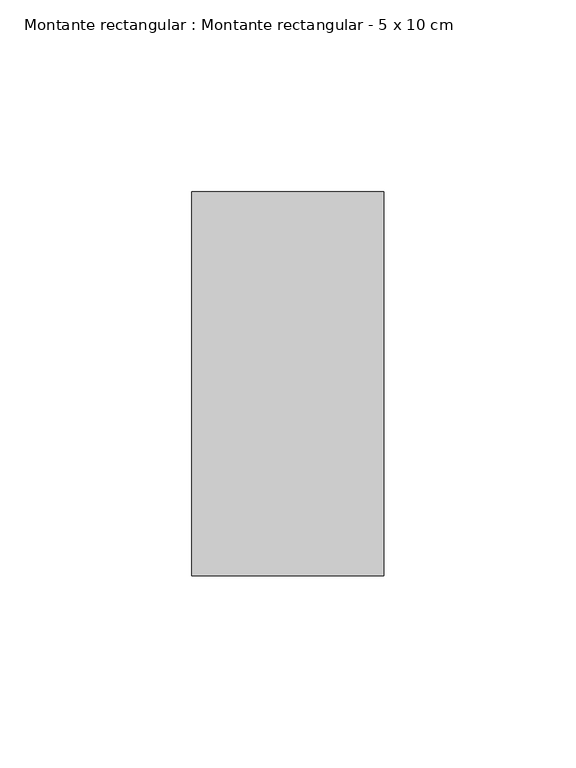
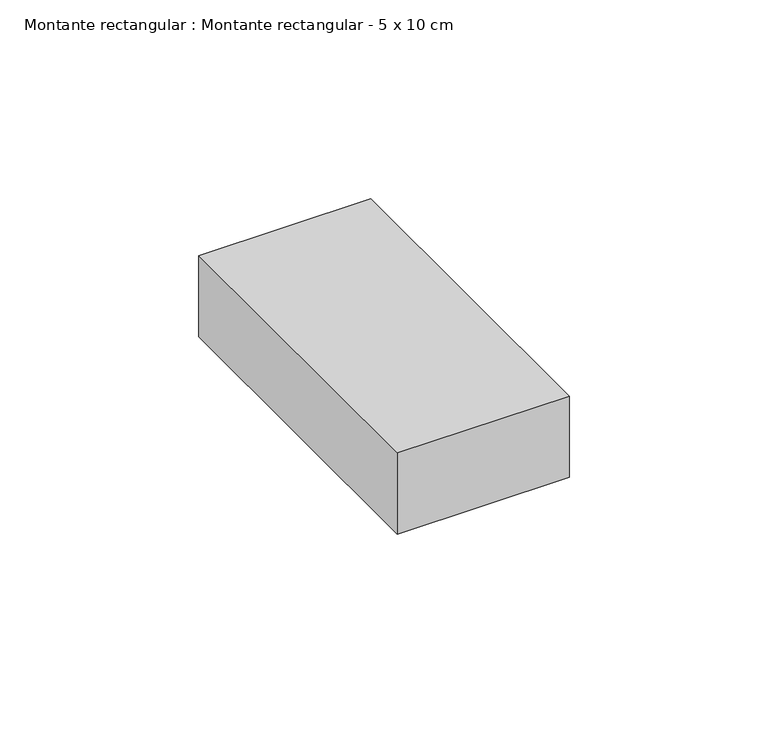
"""IFC4 building model written with IfcOpenShell, lengths in millimetres: member geometry, Montante rectangular : Montante rectangular - 5 x 10 cm."""

from ifc_helpers import new_model, si_unit, frame, origin, place, context, project, spatial, polyline, outline, extrude, source, transform, mapped, element, save


def montante_rectangular_montante_rectangular_5_x_10_cm_b65881a9(model_context):
    return source(origin(), model_context, "Body", "SweptSolid", [
        extrude(outline(polyline([(0.0, 50.0), (0.0, -50.0), (-50.0, -50.0), (-50.0, 50.0), (0.0, 50.0)])), frame((0.0, 0.0, -25.0), z_axis=(0.0, 0.0, 1.0), x_axis=(1.0, 0.0, 0.0)), (0.0, 0.0, 1.0), 25.0),
    ])


if __name__ == "__main__":
    model = new_model("IFC4")
    model_context = context("Model", 3, world=origin())
    ifc_project = project(units=[si_unit("LENGTHUNIT", "METRE", prefix="MILLI")], contexts=[model_context])
    site = spatial("IfcSite", under=ifc_project)
    building = spatial("IfcBuilding", under=site)
    placement = place(None, origin())
    montante_rectangular_montante_rectangular_5_x_10_cm_shape = montante_rectangular_montante_rectangular_5_x_10_cm_b65881a9(model_context)
    element("IfcMember", 1, ObjectType="Montante rectangular : Montante rectangular - 5 x 10 cm", at=placement, inside=building, context=model_context, shape_type="MappedRepresentation", body=[
        mapped(montante_rectangular_montante_rectangular_5_x_10_cm_shape, transform((0.0, 0.0, 0.0), x_axis=(1.0, 0.0, 0.0), y_axis=(0.0, 1.0, 0.0), z_axis=(0.0, 0.0, 1.0))),
    ])
    save(model, "model.ifc")
